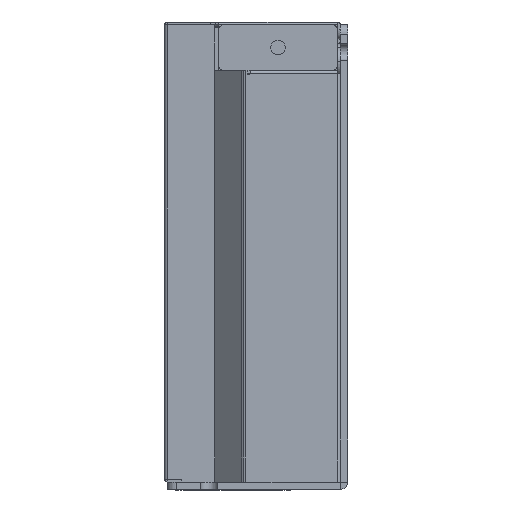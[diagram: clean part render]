
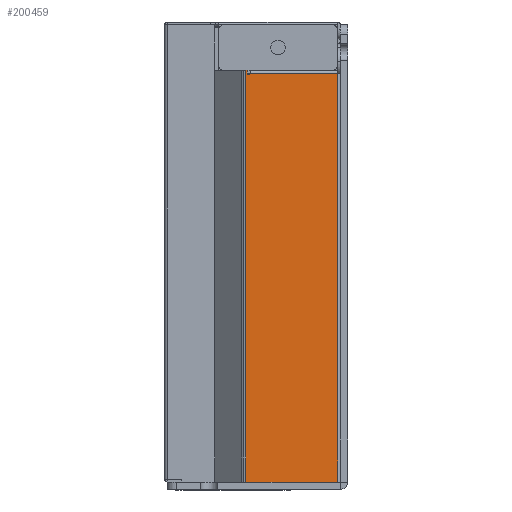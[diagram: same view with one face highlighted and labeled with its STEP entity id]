
A CAD part, left-side view. The second image highlights one B-rep face of the part: STEP entity #200459.
In plain terms, the highlighted planar face has unit normal (-1, 0, 0).
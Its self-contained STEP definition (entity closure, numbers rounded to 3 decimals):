
#141904=DIRECTION('',(0.,-1.,0.));
#141905=VECTOR('',#141904,85.5);
#141906=CARTESIAN_POINT('',(-67.45,47.65,-16.849));
#141907=LINE('',#141906,#141905);
#141926=DIRECTION('',(0.,0.,1.));
#141927=VECTOR('',#141926,19.051);
#141928=CARTESIAN_POINT('',(-67.45,47.65,-35.9));
#141929=LINE('',#141928,#141927);
#141933=DIRECTION('',(0.,0.,-1.));
#141934=VECTOR('',#141933,0.3);
#141935=CARTESIAN_POINT('',(-67.45,-37.85,-16.849));
#141936=LINE('',#141935,#141934);
#141940=DIRECTION('',(0.,1.,0.));
#141941=VECTOR('',#141940,0.6);
#141942=CARTESIAN_POINT('',(-67.45,-37.85,-17.149));
#141943=LINE('',#141942,#141941);
#141947=CARTESIAN_POINT('',(-67.45,-37.25,-17.449));
#141948=DIRECTION('',(-1.,0.,0.));
#141949=DIRECTION('',(0.,0.,1.));
#141950=AXIS2_PLACEMENT_3D('',#141947,#141948,#141949);
#141963=DIRECTION('',(0.,0.,-1.));
#141964=VECTOR('',#141963,18.151);
#141965=CARTESIAN_POINT('',(-67.45,-37.25,-17.749));
#141966=LINE('',#141965,#141964);
#142361=DIRECTION('',(0.,-1.,0.));
#142362=VECTOR('',#142361,84.9);
#142363=CARTESIAN_POINT('',(-67.45,47.65,-35.9));
#142364=LINE('',#142363,#142362);
#184631=CARTESIAN_POINT('',(-67.45,47.65,-35.9));
#184632=CARTESIAN_POINT('',(-67.45,47.65,-16.849));
#184633=VERTEX_POINT('',#184631);
#184634=VERTEX_POINT('',#184632);
#184653=CARTESIAN_POINT('',(-67.45,-37.85,-16.849));
#184654=VERTEX_POINT('',#184653);
#184657=CARTESIAN_POINT('',(-67.45,-37.85,-17.149));
#184658=CARTESIAN_POINT('',(-67.45,-37.25,-17.149));
#184659=VERTEX_POINT('',#184657);
#184660=VERTEX_POINT('',#184658);
#184661=CARTESIAN_POINT('',(-67.45,-37.25,-17.749));
#184662=VERTEX_POINT('',#184661);
#184675=CARTESIAN_POINT('',(-67.45,-37.25,-35.9));
#184676=VERTEX_POINT('',#184675);
#200440=CARTESIAN_POINT('',(-67.45,25.102,-16.6));
#200441=DIRECTION('',(1.,0.,0.));
#200442=DIRECTION('',(0.,-1.,0.));
#200443=AXIS2_PLACEMENT_3D('',#200440,#200441,#200442);
#200444=PLANE('',#200443);
#200446=ORIENTED_EDGE('',*,*,#200445,.T.);
#200448=ORIENTED_EDGE('',*,*,#200447,.F.);
#200450=ORIENTED_EDGE('',*,*,#200449,.T.);
#200451=ORIENTED_EDGE('',*,*,#200433,.T.);
#200452=ORIENTED_EDGE('',*,*,#200337,.T.);
#200454=ORIENTED_EDGE('',*,*,#200453,.T.);
#200456=ORIENTED_EDGE('',*,*,#200455,.T.);
#200457=EDGE_LOOP('',(#200446,#200448,#200450,#200451,#200452,#200454,#200456));
#200458=FACE_OUTER_BOUND('',#200457,.F.);
#141951=CIRCLE('',#141950,0.3);
#200337=EDGE_CURVE('',#184654,#184659,#141936,.T.);
#200433=EDGE_CURVE('',#184634,#184654,#141907,.T.);
#200445=EDGE_CURVE('',#184662,#184676,#141966,.T.);
#200447=EDGE_CURVE('',#184633,#184676,#142364,.T.);
#200449=EDGE_CURVE('',#184633,#184634,#141929,.T.);
#200453=EDGE_CURVE('',#184659,#184660,#141943,.T.);
#200455=EDGE_CURVE('',#184660,#184662,#141951,.T.);
#200459=ADVANCED_FACE('',(#200458),#200444,.F.);
